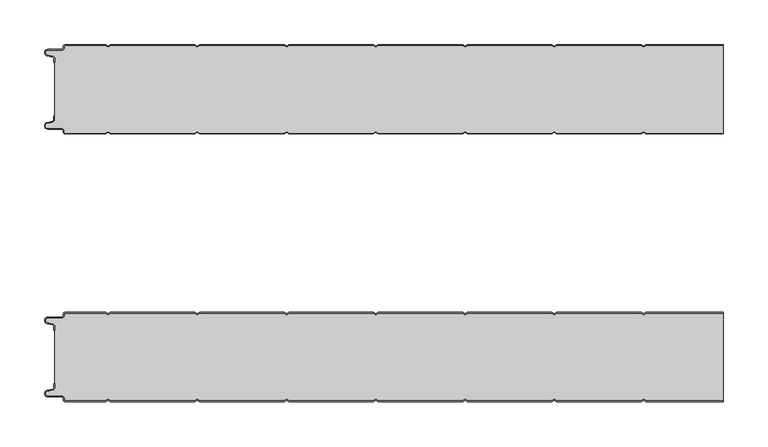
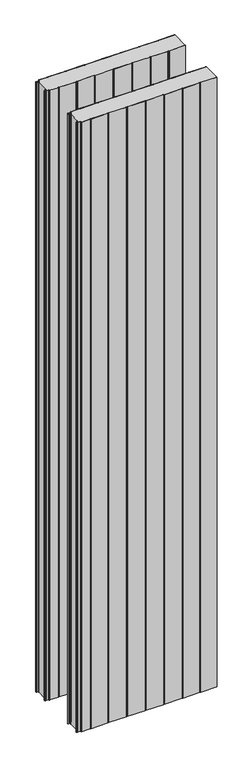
"""IFC4 building model written with IfcOpenShell, lengths in millimetres: plate geometry, Curtain-Panel_Doble-Panel-Acústico_Perfil-frigorífico-PM1 : ACH_Doble-Panel-Acústico_PM1_100-200-100."""

from ifc_helpers import new_model, si_unit, point, frame_2d, origin, origin_with_axes, place, context, project, spatial, polyline, circle_curve, trimmed, segment, composite_curve, outline, extrude, source, transform, mapped, element, save


def plate_f4a87b82(model_context):
    return source(origin(), model_context, "Body", "SweptSolid", [
        extrude(outline(composite_curve([segment(trimmed(circle_curve(frame_2d((-377.0, -315.878557)), 2.0), [point((-375.0, -315.878557))], [point((-376.5500978, -313.9298169))], True, "CARTESIAN"), True, "CONTINUOUS"), segment(polyline([(-376.5500978, -313.9298169), (-382.7098239, -312.507732)]), True, "CONTINUOUS"), segment(trimmed(circle_curve(frame_2d((-381.9, -309.0)), 3.6), [point((-382.7098239, -312.507732))], [point((-381.9, -305.4))], False, "CARTESIAN"), True, "CONTINUOUS"), segment(polyline([(-381.9, -305.4), (-366.4, -305.4)]), True, "CONTINUOUS"), segment(trimmed(circle_curve(frame_2d((-366.4, -303.4)), 2.0), [point((-366.4, -305.4))], [point((-364.4, -303.4))], True, "CARTESIAN"), True, "CONTINUOUS"), segment(polyline([(-364.4, -303.4), (-364.4, -302.0)]), True, "CONTINUOUS"), segment(trimmed(circle_curve(frame_2d((-362.4, -302.0)), 2.0), [point((-364.4, -302.0))], [point((-362.4, -300.0))], False, "CARTESIAN"), True, "CONTINUOUS"), segment(polyline([(-362.4, -300.0), (-317.0999995, -300.0), (-314.4, -301.5588455), (-311.7000005, -300.0), (-217.0999995, -300.0), (-214.4, -301.5588455), (-211.7000005, -300.0), (-117.0999995, -300.0), (-114.4, -301.5588455), (-111.7000005, -300.0), (-17.0999995, -300.0), (-14.4, -301.5588455), (-11.7000005, -300.0), (82.9000005, -300.0), (85.6, -301.5588455), (88.2999995, -300.0), (182.9000005, -300.0), (185.6, -301.5588455), (188.2999995, -300.0), (282.9000005, -300.0), (285.6, -301.5588455), (288.2999995, -300.0), (375.0, -300.0), (375.0, -300.8), (288.5143588, -300.8), (285.6, -302.482606), (282.6856412, -300.8), (188.5143588, -300.8), (185.6, -302.482606), (182.6856412, -300.8), (88.5143588, -300.8), (85.6, -302.482606), (82.6856412, -300.8), (-11.4856412, -300.8), (-14.4, -302.482606), (-17.3143588, -300.8), (-111.4856412, -300.8), (-114.4, -302.482606), (-117.3143588, -300.8), (-211.4856412, -300.8), (-214.4, -302.482606), (-217.3143588, -300.8), (-311.4856412, -300.8), (-314.4, -302.482606), (-317.3143588, -300.8), (-362.4, -300.8)]), True, "CONTINUOUS"), segment(trimmed(circle_curve(frame_2d((-362.4, -302.0)), 1.2), [point((-362.4, -300.8))], [point((-363.6, -302.0))], True, "CARTESIAN"), True, "CONTINUOUS"), segment(polyline([(-363.6, -302.0), (-363.6, -303.4)]), True, "CONTINUOUS"), segment(trimmed(circle_curve(frame_2d((-366.4, -303.4)), 2.8), [point((-363.6, -303.4))], [point((-366.4, -306.2))], False, "CARTESIAN"), True, "CONTINUOUS"), segment(polyline([(-366.4, -306.2), (-381.9, -306.2)]), True, "CONTINUOUS"), segment(trimmed(circle_curve(frame_2d((-381.9, -309.0)), 2.8), [point((-381.9, -306.2))], [point((-382.529863, -311.7282362))], True, "CARTESIAN"), True, "CONTINUOUS"), segment(polyline([(-382.529863, -311.7282362), (-376.370137, -313.150321)]), True, "CONTINUOUS"), segment(trimmed(circle_curve(frame_2d((-377.0, -315.878557)), 2.8), [point((-376.370137, -313.150321))], [point((-374.2, -315.878557))], False, "CARTESIAN"), True, "CONTINUOUS"), segment(polyline([(-374.2, -315.878557), (-374.2, -320.0), (-375.0, -320.0), (-375.0, -315.878557)]), True, "CONTINUOUS")], self_intersect=False)), origin_with_axes(), (0.0, 0.0, 1.0), 3500.0),
        extrude(outline(composite_curve([segment(polyline([(-375.0, -384.121443), (-375.0, -380.0), (-374.2, -380.0), (-374.2, -384.121443)]), True, "CONTINUOUS"), segment(trimmed(circle_curve(frame_2d((-377.0, -384.121443)), 2.8), [point((-374.2, -384.121443))], [point((-376.370137, -386.8496792))], False, "CARTESIAN"), True, "CONTINUOUS"), segment(polyline([(-376.370137, -386.8496792), (-382.529863, -388.271764)]), True, "CONTINUOUS"), segment(trimmed(circle_curve(frame_2d((-381.9, -391.0)), 2.8), [point((-382.529863, -388.271764))], [point((-381.9, -393.8))], True, "CARTESIAN"), True, "CONTINUOUS"), segment(polyline([(-381.9, -393.8), (-366.4, -393.8)]), True, "CONTINUOUS"), segment(trimmed(circle_curve(frame_2d((-366.4, -396.6)), 2.8), [point((-366.4, -393.8))], [point((-363.6, -396.6))], False, "CARTESIAN"), True, "CONTINUOUS"), segment(polyline([(-363.6, -396.6), (-363.6, -398.0)]), True, "CONTINUOUS"), segment(trimmed(circle_curve(frame_2d((-362.4, -398.0)), 1.2), [point((-363.6, -398.0))], [point((-362.4, -399.2))], True, "CARTESIAN"), True, "CONTINUOUS"), segment(polyline([(-362.4, -399.2), (-317.3143588, -399.2), (-314.4, -397.517394), (-311.4856412, -399.2), (-217.3143588, -399.2), (-214.4, -397.517394), (-211.4856412, -399.2), (-117.3143588, -399.2), (-114.4, -397.517394), (-111.4856412, -399.2), (-17.3143588, -399.2), (-14.4, -397.517394), (-11.4856412, -399.2), (82.6856412, -399.2), (85.6, -397.517394), (88.5143588, -399.2), (182.6856412, -399.2), (185.6, -397.517394), (188.5143588, -399.2), (282.6856412, -399.2), (285.6, -397.517394), (288.5143588, -399.2), (375.0, -399.2), (375.0, -400.0), (288.2999995, -400.0), (285.6, -398.4411545), (282.9000005, -400.0), (188.2999995, -400.0), (185.6, -398.4411545), (182.9000005, -400.0), (88.2999995, -400.0), (85.6, -398.4411545), (82.9000005, -400.0), (-11.7000005, -400.0), (-14.4, -398.4411545), (-17.0999995, -400.0), (-111.7000005, -400.0), (-114.4, -398.4411545), (-117.0999995, -400.0), (-211.7000005, -400.0), (-214.4, -398.4411545), (-217.0999995, -400.0), (-311.7000005, -400.0), (-314.4, -398.4411545), (-317.0999995, -400.0), (-362.4, -400.0)]), True, "CONTINUOUS"), segment(trimmed(circle_curve(frame_2d((-362.4, -398.0)), 2.0), [point((-362.4, -400.0))], [point((-364.4, -398.0))], False, "CARTESIAN"), True, "CONTINUOUS"), segment(polyline([(-364.4, -398.0), (-364.4, -396.6)]), True, "CONTINUOUS"), segment(trimmed(circle_curve(frame_2d((-366.4, -396.6)), 2.0), [point((-364.4, -396.6))], [point((-366.4, -394.6))], True, "CARTESIAN"), True, "CONTINUOUS"), segment(polyline([(-366.4, -394.6), (-381.9, -394.6)]), True, "CONTINUOUS"), segment(trimmed(circle_curve(frame_2d((-381.9, -391.0)), 3.6), [point((-381.9, -394.6))], [point((-382.7098239, -387.4922678))], False, "CARTESIAN"), True, "CONTINUOUS"), segment(polyline([(-382.7098239, -387.4922678), (-376.5500979, -386.070183)]), True, "CONTINUOUS"), segment(trimmed(circle_curve(frame_2d((-377.0, -384.121443)), 2.0), [point((-376.5500979, -386.070183))], [point((-375.0, -384.121443))], True, "CARTESIAN"), True, "CONTINUOUS")], self_intersect=False)), origin_with_axes(), (0.0, 0.0, 1.0), 3500.0),
        extrude(outline(composite_curve([segment(polyline([(-374.2, -384.1214426), (-374.2, -315.8785573)]), True, "CONTINUOUS"), segment(trimmed(circle_curve(frame_2d((-377.0, -315.8785573)), 2.8), [point((-374.2, -315.8785573))], [point((-376.370137, -313.1503212))], True, "CARTESIAN"), True, "CONTINUOUS"), segment(polyline([(-376.370137, -313.1503212), (-382.5298631, -311.7282362)]), True, "CONTINUOUS"), segment(trimmed(circle_curve(frame_2d((-381.9, -309.0)), 2.8), [point((-382.5298631, -311.7282362))], [point((-381.9, -306.2))], False, "CARTESIAN"), True, "CONTINUOUS"), segment(polyline([(-381.9, -306.2), (-366.4000001, -306.2)]), True, "CONTINUOUS"), segment(trimmed(circle_curve(frame_2d((-366.4000001, -303.4)), 2.8), [point((-366.4000001, -306.2))], [point((-363.6000001, -303.4))], True, "CARTESIAN"), True, "CONTINUOUS"), segment(polyline([(-363.6000001, -303.4), (-363.6000001, -302.0)]), True, "CONTINUOUS"), segment(trimmed(circle_curve(frame_2d((-362.4000001, -302.0)), 1.2), [point((-363.6000001, -302.0))], [point((-362.4000001, -300.8))], False, "CARTESIAN"), True, "CONTINUOUS"), segment(polyline([(-362.4000001, -300.8), (-317.3143589, -300.8), (-314.4000001, -302.482606), (-311.4856412, -300.8), (-217.3143589, -300.8), (-214.4000001, -302.482606), (-211.4856412, -300.8), (-117.3143589, -300.8), (-114.4000001, -302.482606), (-111.4856412, -300.8), (-17.3143589, -300.8), (-14.4000001, -302.482606), (-11.4856412, -300.8), (82.6856411, -300.8), (85.5999999, -302.482606), (88.5143588, -300.8), (182.6856411, -300.8), (185.5999999, -302.482606), (188.5143588, -300.8), (282.6856411, -300.8), (285.5999999, -302.482606), (288.5143588, -300.8), (375.0, -300.8), (375.0, -399.2), (288.5143588, -399.2), (285.5999999, -397.517394), (282.6856411, -399.2), (188.5143588, -399.2), (185.5999999, -397.517394), (182.6856411, -399.2), (88.5143588, -399.2), (85.5999999, -397.517394), (82.6856411, -399.2), (-11.4856412, -399.2), (-14.4000001, -397.517394), (-17.3143589, -399.2), (-111.4856412, -399.2), (-114.4000001, -397.517394), (-117.3143589, -399.2), (-211.4856412, -399.2), (-214.4000001, -397.517394), (-217.3143589, -399.2), (-311.4856412, -399.2), (-314.4000001, -397.517394), (-317.3143589, -399.2), (-362.4000001, -399.2)]), True, "CONTINUOUS"), segment(trimmed(circle_curve(frame_2d((-362.4000001, -398.0)), 1.2), [point((-362.4000001, -399.2))], [point((-363.6000001, -398.0))], False, "CARTESIAN"), True, "CONTINUOUS"), segment(polyline([(-363.6000001, -398.0), (-363.6000001, -396.6)]), True, "CONTINUOUS"), segment(trimmed(circle_curve(frame_2d((-366.4000001, -396.6)), 2.8), [point((-363.6000001, -396.6))], [point((-366.4000001, -393.8))], True, "CARTESIAN"), True, "CONTINUOUS"), segment(polyline([(-366.4000001, -393.8), (-381.9, -393.8)]), True, "CONTINUOUS"), segment(trimmed(circle_curve(frame_2d((-381.9, -391.0)), 2.8), [point((-381.9, -393.8))], [point((-382.5298631, -388.2717638))], False, "CARTESIAN"), True, "CONTINUOUS"), segment(polyline([(-382.5298631, -388.2717638), (-376.370137, -386.8496788)]), True, "CONTINUOUS"), segment(trimmed(circle_curve(frame_2d((-377.0, -384.1214426)), 2.8), [point((-376.370137, -386.8496788))], [point((-374.2, -384.1214426))], True, "CARTESIAN"), True, "CONTINUOUS")], self_intersect=False)), origin_with_axes(), (0.0, 0.0, 1.0), 3500.0),
        extrude(outline(composite_curve([segment(trimmed(circle_curve(frame_2d((-377.0, -15.878557)), 2.0), [point((-375.0, -15.878557))], [point((-376.5500978, -13.9298169))], True, "CARTESIAN"), True, "CONTINUOUS"), segment(polyline([(-376.5500978, -13.9298169), (-382.7098239, -12.507732)]), True, "CONTINUOUS"), segment(trimmed(circle_curve(frame_2d((-381.9, -9.0)), 3.6), [point((-382.7098239, -12.507732))], [point((-381.9, -5.4))], False, "CARTESIAN"), True, "CONTINUOUS"), segment(polyline([(-381.9, -5.4), (-366.4, -5.4)]), True, "CONTINUOUS"), segment(trimmed(circle_curve(frame_2d((-366.4, -3.4)), 2.0), [point((-366.4, -5.4))], [point((-364.4, -3.4))], True, "CARTESIAN"), True, "CONTINUOUS"), segment(polyline([(-364.4, -3.4), (-364.4, -2.0)]), True, "CONTINUOUS"), segment(trimmed(circle_curve(frame_2d((-362.4, -2.0)), 2.0), [point((-364.4, -2.0))], [point((-362.4, 0.0))], False, "CARTESIAN"), True, "CONTINUOUS"), segment(polyline([(-362.4, 0.0), (-317.0999995, 0.0), (-314.4, -1.5588455), (-311.7000005, 0.0), (-217.0999995, 0.0), (-214.4, -1.5588455), (-211.7000005, 0.0), (-117.0999995, 0.0), (-114.4, -1.5588455), (-111.7000005, 0.0), (-17.0999995, 0.0), (-14.4, -1.5588455), (-11.7000005, 0.0), (82.9000005, 0.0), (85.6, -1.5588455), (88.2999995, 0.0), (182.9000005, 0.0), (185.6, -1.5588455), (188.2999995, 0.0), (282.9000005, 0.0), (285.6, -1.5588455), (288.2999995, 0.0), (375.0, 0.0), (375.0, -0.8), (288.5143588, -0.8), (285.6, -2.482606), (282.6856412, -0.8), (188.5143588, -0.8), (185.6, -2.482606), (182.6856412, -0.8), (88.5143588, -0.8), (85.6, -2.482606), (82.6856412, -0.8), (-11.4856412, -0.8), (-14.4, -2.482606), (-17.3143588, -0.8), (-111.4856412, -0.8), (-114.4, -2.482606), (-117.3143588, -0.8), (-211.4856412, -0.8), (-214.4, -2.482606), (-217.3143588, -0.8), (-311.4856412, -0.8), (-314.4, -2.482606), (-317.3143588, -0.8), (-362.4, -0.8)]), True, "CONTINUOUS"), segment(trimmed(circle_curve(frame_2d((-362.4, -2.0)), 1.2), [point((-362.4, -0.8))], [point((-363.6, -2.0))], True, "CARTESIAN"), True, "CONTINUOUS"), segment(polyline([(-363.6, -2.0), (-363.6, -3.4)]), True, "CONTINUOUS"), segment(trimmed(circle_curve(frame_2d((-366.4, -3.4)), 2.8), [point((-363.6, -3.4))], [point((-366.4, -6.2))], False, "CARTESIAN"), True, "CONTINUOUS"), segment(polyline([(-366.4, -6.2), (-381.9, -6.2)]), True, "CONTINUOUS"), segment(trimmed(circle_curve(frame_2d((-381.9, -9.0)), 2.8), [point((-381.9, -6.2))], [point((-382.529863, -11.7282362))], True, "CARTESIAN"), True, "CONTINUOUS"), segment(polyline([(-382.529863, -11.7282362), (-376.370137, -13.150321)]), True, "CONTINUOUS"), segment(trimmed(circle_curve(frame_2d((-377.0, -15.878557)), 2.8), [point((-376.370137, -13.150321))], [point((-374.2, -15.878557))], False, "CARTESIAN"), True, "CONTINUOUS"), segment(polyline([(-374.2, -15.878557), (-374.2, -20.0), (-375.0, -20.0), (-375.0, -15.878557)]), True, "CONTINUOUS")], self_intersect=False)), origin_with_axes(), (0.0, 0.0, 1.0), 3500.0),
        extrude(outline(composite_curve([segment(polyline([(-374.2, -84.1214426), (-374.2, -15.8785573)]), True, "CONTINUOUS"), segment(trimmed(circle_curve(frame_2d((-377.0, -15.8785573)), 2.8), [point((-374.2, -15.8785573))], [point((-376.370137, -13.1503212))], True, "CARTESIAN"), True, "CONTINUOUS"), segment(polyline([(-376.370137, -13.1503212), (-382.5298631, -11.7282362)]), True, "CONTINUOUS"), segment(trimmed(circle_curve(frame_2d((-381.9, -9.0)), 2.8), [point((-382.5298631, -11.7282362))], [point((-381.9, -6.2))], False, "CARTESIAN"), True, "CONTINUOUS"), segment(polyline([(-381.9, -6.2), (-366.4000001, -6.2)]), True, "CONTINUOUS"), segment(trimmed(circle_curve(frame_2d((-366.4000001, -3.4)), 2.8), [point((-366.4000001, -6.2))], [point((-363.6000001, -3.4))], True, "CARTESIAN"), True, "CONTINUOUS"), segment(polyline([(-363.6000001, -3.4), (-363.6000001, -2.0)]), True, "CONTINUOUS"), segment(trimmed(circle_curve(frame_2d((-362.4000001, -2.0)), 1.2), [point((-363.6000001, -2.0))], [point((-362.4000001, -0.8))], False, "CARTESIAN"), True, "CONTINUOUS"), segment(polyline([(-362.4000001, -0.8), (-317.3143589, -0.8), (-314.4000001, -2.482606), (-311.4856412, -0.8), (-217.3143589, -0.8), (-214.4000001, -2.482606), (-211.4856412, -0.8), (-117.3143589, -0.8), (-114.4000001, -2.482606), (-111.4856412, -0.8), (-17.3143589, -0.8), (-14.4000001, -2.482606), (-11.4856412, -0.8), (82.6856411, -0.8), (85.5999999, -2.482606), (88.5143588, -0.8), (182.6856411, -0.8), (185.5999999, -2.482606), (188.5143588, -0.8), (282.6856411, -0.8), (285.5999999, -2.482606), (288.5143588, -0.8), (375.0, -0.8), (375.0, -99.2), (288.5143588, -99.2), (285.5999999, -97.517394), (282.6856411, -99.2), (188.5143588, -99.2), (185.5999999, -97.517394), (182.6856411, -99.2), (88.5143588, -99.2), (85.5999999, -97.517394), (82.6856411, -99.2), (-11.4856412, -99.2), (-14.4000001, -97.517394), (-17.3143589, -99.2), (-111.4856412, -99.2), (-114.4000001, -97.517394), (-117.3143589, -99.2), (-211.4856412, -99.2), (-214.4000001, -97.517394), (-217.3143589, -99.2), (-311.4856412, -99.2), (-314.4000001, -97.517394), (-317.3143589, -99.2), (-362.4000001, -99.2)]), True, "CONTINUOUS"), segment(trimmed(circle_curve(frame_2d((-362.4000001, -98.0)), 1.2), [point((-362.4000001, -99.2))], [point((-363.6000001, -98.0))], False, "CARTESIAN"), True, "CONTINUOUS"), segment(polyline([(-363.6000001, -98.0), (-363.6000001, -96.6)]), True, "CONTINUOUS"), segment(trimmed(circle_curve(frame_2d((-366.4000001, -96.6)), 2.8), [point((-363.6000001, -96.6))], [point((-366.4000001, -93.8))], True, "CARTESIAN"), True, "CONTINUOUS"), segment(polyline([(-366.4000001, -93.8), (-381.9, -93.8)]), True, "CONTINUOUS"), segment(trimmed(circle_curve(frame_2d((-381.9, -91.0)), 2.8), [point((-381.9, -93.8))], [point((-382.5298631, -88.2717638))], False, "CARTESIAN"), True, "CONTINUOUS"), segment(polyline([(-382.5298631, -88.2717638), (-376.370137, -86.8496788)]), True, "CONTINUOUS"), segment(trimmed(circle_curve(frame_2d((-377.0, -84.1214426)), 2.8), [point((-376.370137, -86.8496788))], [point((-374.2, -84.1214426))], True, "CARTESIAN"), True, "CONTINUOUS")], self_intersect=False)), origin_with_axes(), (0.0, 0.0, 1.0), 3500.0),
        extrude(outline(composite_curve([segment(polyline([(-375.0, -84.121443), (-375.0, -80.0), (-374.2, -80.0), (-374.2, -84.121443)]), True, "CONTINUOUS"), segment(trimmed(circle_curve(frame_2d((-377.0, -84.121443)), 2.8), [point((-374.2, -84.121443))], [point((-376.370137, -86.8496792))], False, "CARTESIAN"), True, "CONTINUOUS"), segment(polyline([(-376.370137, -86.8496792), (-382.529863, -88.271764)]), True, "CONTINUOUS"), segment(trimmed(circle_curve(frame_2d((-381.9, -91.0)), 2.8), [point((-382.529863, -88.271764))], [point((-381.9, -93.8))], True, "CARTESIAN"), True, "CONTINUOUS"), segment(polyline([(-381.9, -93.8), (-366.4, -93.8)]), True, "CONTINUOUS"), segment(trimmed(circle_curve(frame_2d((-366.4, -96.6)), 2.8), [point((-366.4, -93.8))], [point((-363.6, -96.6))], False, "CARTESIAN"), True, "CONTINUOUS"), segment(polyline([(-363.6, -96.6), (-363.6, -98.0)]), True, "CONTINUOUS"), segment(trimmed(circle_curve(frame_2d((-362.4, -98.0)), 1.2), [point((-363.6, -98.0))], [point((-362.4, -99.2))], True, "CARTESIAN"), True, "CONTINUOUS"), segment(polyline([(-362.4, -99.2), (-317.3143588, -99.2), (-314.4, -97.517394), (-311.4856412, -99.2), (-217.3143588, -99.2), (-214.4, -97.517394), (-211.4856412, -99.2), (-117.3143588, -99.2), (-114.4, -97.517394), (-111.4856412, -99.2), (-17.3143588, -99.2), (-14.4, -97.517394), (-11.4856412, -99.2), (82.6856412, -99.2), (85.6, -97.517394), (88.5143588, -99.2), (182.6856412, -99.2), (185.6, -97.517394), (188.5143588, -99.2), (282.6856412, -99.2), (285.6, -97.517394), (288.5143588, -99.2), (375.0, -99.2), (375.0, -100.0), (288.2999995, -100.0), (285.6, -98.4411545), (282.9000005, -100.0), (188.2999995, -100.0), (185.6, -98.4411545), (182.9000005, -100.0), (88.2999995, -100.0), (85.6, -98.4411545), (82.9000005, -100.0), (-11.7000005, -100.0), (-14.4, -98.4411545), (-17.0999995, -100.0), (-111.7000005, -100.0), (-114.4, -98.4411545), (-117.0999995, -100.0), (-211.7000005, -100.0), (-214.4, -98.4411545), (-217.0999995, -100.0), (-311.7000005, -100.0), (-314.4, -98.4411545), (-317.0999995, -100.0), (-362.4, -100.0)]), True, "CONTINUOUS"), segment(trimmed(circle_curve(frame_2d((-362.4, -98.0)), 2.0), [point((-362.4, -100.0))], [point((-364.4, -98.0))], False, "CARTESIAN"), True, "CONTINUOUS"), segment(polyline([(-364.4, -98.0), (-364.4, -96.6)]), True, "CONTINUOUS"), segment(trimmed(circle_curve(frame_2d((-366.4, -96.6)), 2.0), [point((-364.4, -96.6))], [point((-366.4, -94.6))], True, "CARTESIAN"), True, "CONTINUOUS"), segment(polyline([(-366.4, -94.6), (-381.9, -94.6)]), True, "CONTINUOUS"), segment(trimmed(circle_curve(frame_2d((-381.9, -91.0)), 3.6), [point((-381.9, -94.6))], [point((-382.7098239, -87.4922678))], False, "CARTESIAN"), True, "CONTINUOUS"), segment(polyline([(-382.7098239, -87.4922678), (-376.5500979, -86.070183)]), True, "CONTINUOUS"), segment(trimmed(circle_curve(frame_2d((-377.0, -84.121443)), 2.0), [point((-376.5500979, -86.070183))], [point((-375.0, -84.121443))], True, "CARTESIAN"), True, "CONTINUOUS")], self_intersect=False)), origin_with_axes(), (0.0, 0.0, 1.0), 3500.0),
    ])


if __name__ == "__main__":
    model = new_model("IFC4")
    model_context = context("Model", 3, world=origin())
    ifc_project = project(units=[si_unit("LENGTHUNIT", "METRE", prefix="MILLI")], contexts=[model_context])
    site = spatial("IfcSite", under=ifc_project)
    building = spatial("IfcBuilding", under=site)
    placement = place(None, origin())
    plate_shape = plate_f4a87b82(model_context)
    element("IfcPlate", 1, ObjectType="Curtain-Panel_Doble-Panel-Acústico_Perfil-frigorífico-PM1 : ACH_Doble-Panel-Acústico_PM1_100-200-100", at=placement, inside=building, context=model_context, shape_type="MappedRepresentation", body=[
        mapped(plate_shape, transform((0.0, 0.0, 0.0), x_axis=(1.0, 0.0, 0.0), y_axis=(0.0, 1.0, 0.0), z_axis=(0.0, 0.0, 1.0))),
    ])
    save(model, "model.ifc")
